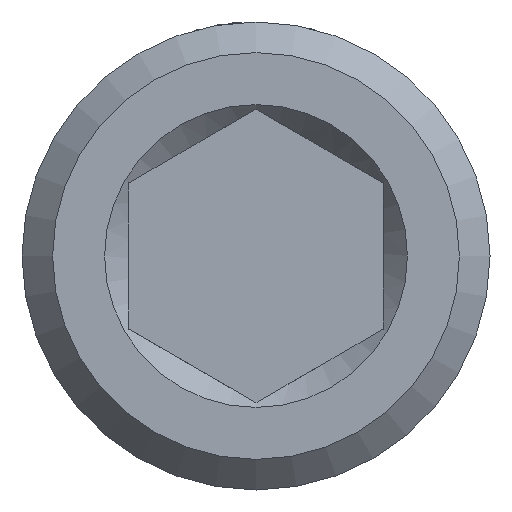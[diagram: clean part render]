
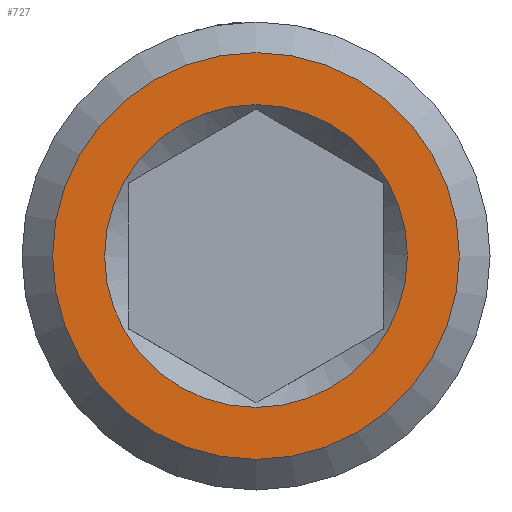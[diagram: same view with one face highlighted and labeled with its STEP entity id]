
A CAD part, front view. The second image highlights one B-rep face of the part: STEP entity #727.
In plain terms, the highlighted planar face has unit normal (0, -1, 0).
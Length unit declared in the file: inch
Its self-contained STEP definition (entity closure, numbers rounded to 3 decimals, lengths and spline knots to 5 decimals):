
#17=FACE_BOUND('',#176,.T.);
#89=CIRCLE('',#798,0.335);
#90=CIRCLE('',#800,0.45);
#132=FACE_OUTER_BOUND('',#175,.T.);
#175=EDGE_LOOP('',(#628));
#176=EDGE_LOOP('',(#629));
#337=VERTEX_POINT('',#1545);
#338=VERTEX_POINT('',#1549);
#437=EDGE_CURVE('',#337,#337,#89,.T.);
#438=EDGE_CURVE('',#338,#338,#90,.T.);
#628=ORIENTED_EDGE('',*,*,#438,.F.);
#629=ORIENTED_EDGE('',*,*,#437,.F.);
#691=PLANE('',#799);
#727=ADVANCED_FACE('',(#132,#17),#691,.T.);
#798=AXIS2_PLACEMENT_3D('',#1547,#948,#949);
#799=AXIS2_PLACEMENT_3D('',#1548,#950,#951);
#800=AXIS2_PLACEMENT_3D('',#1550,#952,#953);
#948=DIRECTION('center_axis',(0.,-1.,0.));
#949=DIRECTION('ref_axis',(0.,0.,1.));
#950=DIRECTION('center_axis',(0.,-1.,0.));
#951=DIRECTION('ref_axis',(0.,0.,-1.));
#952=DIRECTION('center_axis',(0.,1.,0.));
#953=DIRECTION('ref_axis',(0.,0.,1.));
#1545=CARTESIAN_POINT('',(0.,0.,-0.335));
#1547=CARTESIAN_POINT('Origin',(0.,0.,0.));
#1548=CARTESIAN_POINT('Origin',(0.,0.,-0.28));
#1549=CARTESIAN_POINT('',(0.,0.,-0.45));
#1550=CARTESIAN_POINT('Origin',(0.,0.,0.));
